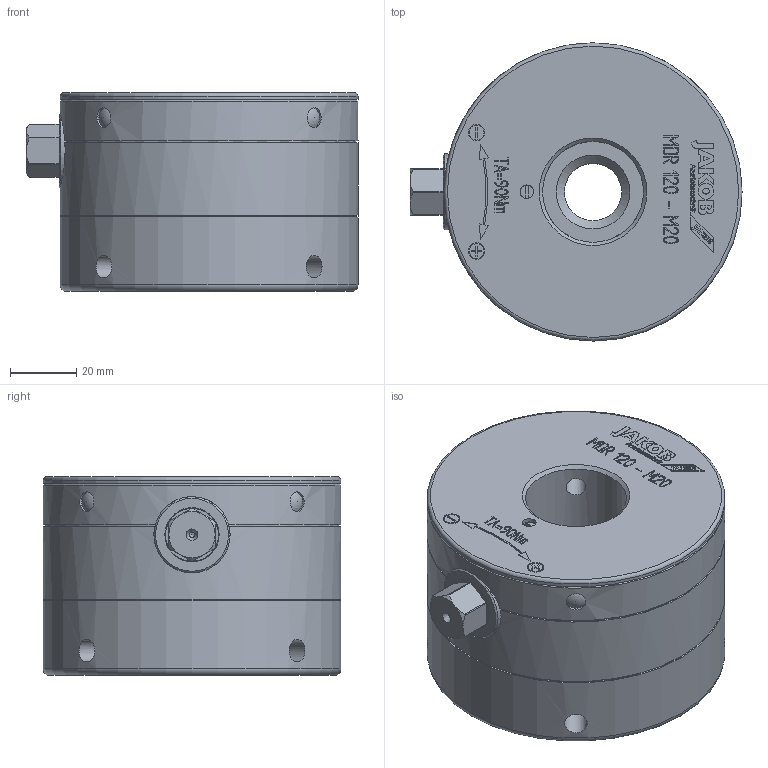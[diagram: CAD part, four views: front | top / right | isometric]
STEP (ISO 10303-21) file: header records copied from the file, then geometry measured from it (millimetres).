
FILE_DESCRIPTION( ( 'Unknown' ), '1' );
FILE_NAME( 'F:/PR/14_Step-Dateien/MDR - MDR-F/MDR 120 - M20 - SW 14.stp', 'Unknown', ( 'Unknown' ), ( 'Unknown' ), 'PSStep 10.1', 'Unknown', ' ' );
FILE_SCHEMA( ( 'AUTOMOTIVE_DESIGN { 1 0 10303 214 1 1 1 1 }' ) );
Length unit declared in the file: millimetre
Products named in the file (1): 46332499
Bounding box: 100.3 x 90 x 60.1 mm (x, y, z)
Volume: 350598.8 mm3; surface area: 37062.8 mm2
Topology: 1 solids, 9 shells, 597 faces, 1496 edges, 997 vertices
Faces by surface type: plane 416, cylinder 67, extrusion 58, cone 36, sphere 16, torus 4
Full cylindrical faces by diameter (mm): 1.6 x2, 4.134 x1, 4.5 x2, 5 x2, 6 x8, 6.8 x8, 12 x1, 16 x1, 17.294 x1, 30.5 x1, 32.5 x1, 42 x1, 89 x1, 90 x4
Entity records: 25353 total; most frequent: CARTESIAN_POINT 7192, ORIENTED_EDGE 2678, DIRECTION 2480, EDGE_CURVE 1339, VECTOR 1056, LINE 998, VERTEX_POINT 933, EDGE_LOOP 774
